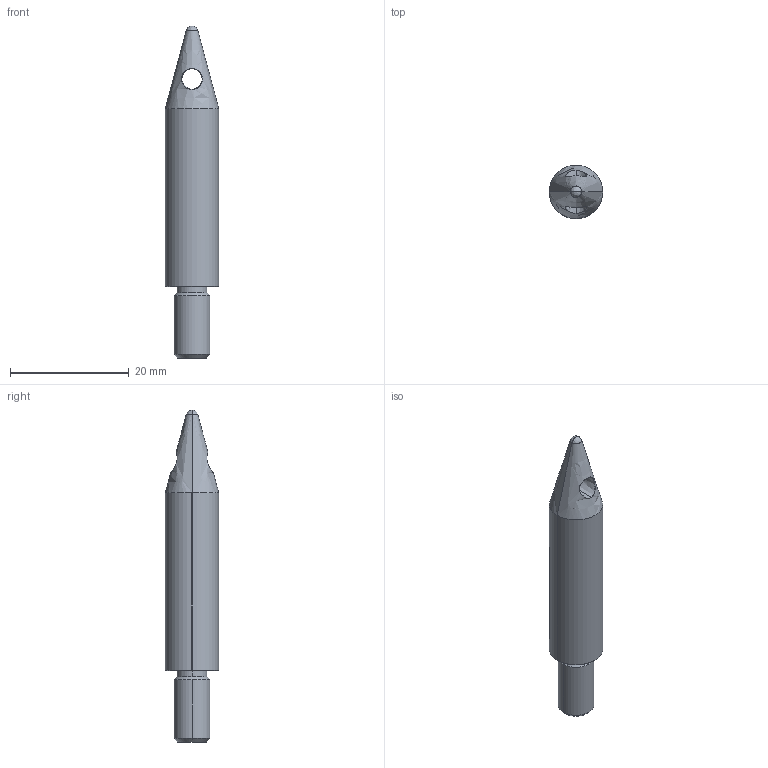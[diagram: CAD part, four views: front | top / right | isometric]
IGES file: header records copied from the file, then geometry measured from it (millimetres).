
Global section: file name: E:\UnigraphicsGraphicData\MISUMI_PRESS-PARTS\IGES\3d_sltlh10-p9.00-b30_02951_r00.igs; native system: NX V5.0; preprocessor: UGS NX IGES V5.0; author: MISUMI; date: 20110105.162834; units: millimetre
Bounding box: 9 x 9 x 55.93 mm (x, y, z)
Surface area: 1419.8 mm2 (no closed solid volume)
Topology: 0 solids, 0 shells, 20 faces, 124 edges, 122 vertices
Faces by surface type: bspline 20
